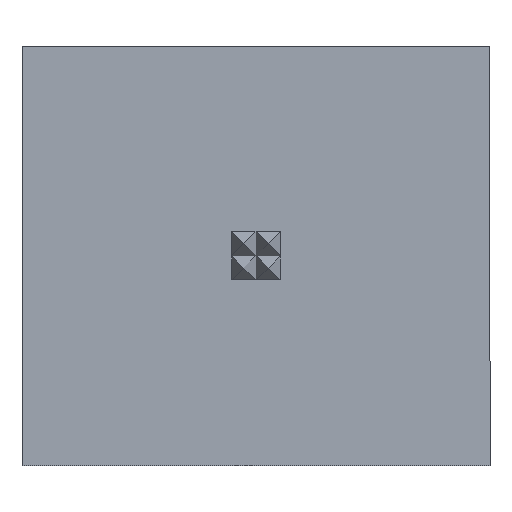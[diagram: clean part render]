
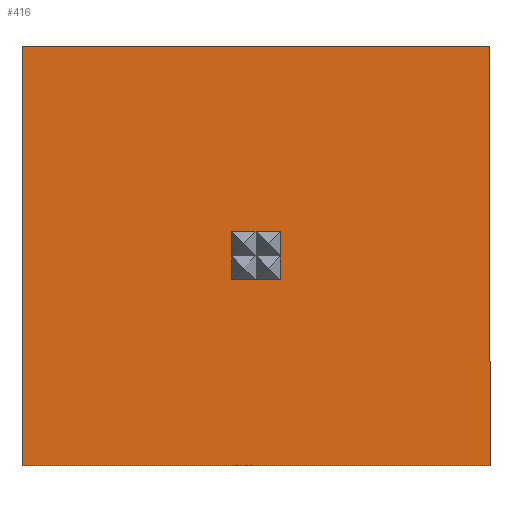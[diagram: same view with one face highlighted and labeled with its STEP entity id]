
A CAD part, top view. The second image highlights one B-rep face of the part: STEP entity #416.
In plain terms, the highlighted planar face has unit normal (0, 0, 1).
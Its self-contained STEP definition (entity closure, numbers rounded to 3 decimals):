
#266=CARTESIAN_POINT('',(-5.755,5.16,1.07));
#267=VERTEX_POINT('',#266);
#274=CARTESIAN_POINT('',(5.755,5.16,1.07));
#275=VERTEX_POINT('',#274);
#276=CARTESIAN_POINT('',(-5.755,5.16,1.07));
#277=DIRECTION('',(1.0,0.0,0.0));
#278=VECTOR('',#277,11.51);
#279=LINE('',#276,#278);
#280=EDGE_CURVE('',#267,#275,#279,.T.);
#297=CARTESIAN_POINT('',(-5.755,-5.16,1.07));
#298=VERTEX_POINT('',#297);
#305=CARTESIAN_POINT('',(-5.755,-5.16,1.07));
#306=DIRECTION('',(0.0,1.0,0.0));
#307=VECTOR('',#306,10.32);
#308=LINE('',#305,#307);
#309=EDGE_CURVE('',#298,#267,#308,.T.);
#327=CARTESIAN_POINT('',(-0.6,5.16,1.07));
#328=DIRECTION('',(0.0,0.0,-1.0));
#329=DIRECTION('',(-1.0,0.0,0.0));
#330=AXIS2_PLACEMENT_3D('',#327,#328,#329);
#331=PLANE('',#330);
#332=ORIENTED_EDGE('',*,*,#309,.F.);
#333=CARTESIAN_POINT('',(5.755,-5.16,1.07));
#334=VERTEX_POINT('',#333);
#335=CARTESIAN_POINT('',(5.755,-5.16,1.07));
#336=DIRECTION('',(-1.0,0.0,0.0));
#337=VECTOR('',#336,11.51);
#338=LINE('',#335,#337);
#339=EDGE_CURVE('',#334,#298,#338,.T.);
#340=ORIENTED_EDGE('',*,*,#339,.F.);
#341=CARTESIAN_POINT('',(5.755,5.16,1.07));
#342=DIRECTION('',(0.0,-1.0,0.0));
#343=VECTOR('',#342,10.32);
#344=LINE('',#341,#343);
#345=EDGE_CURVE('',#275,#334,#344,.T.);
#346=ORIENTED_EDGE('',*,*,#345,.F.);
#347=ORIENTED_EDGE('',*,*,#280,.F.);
#348=EDGE_LOOP('',(#332,#340,#346,#347));
#349=FACE_OUTER_BOUND('',#348,.T.);
#350=CARTESIAN_POINT('',(0.0,0.6,1.07));
#351=VERTEX_POINT('',#350);
#352=CARTESIAN_POINT('',(-0.6,0.6,1.07));
#353=VERTEX_POINT('',#352);
#354=CARTESIAN_POINT('',(0.0,0.6,1.07));
#355=DIRECTION('',(-1.0,0.0,0.0));
#356=VECTOR('',#355,0.6);
#357=LINE('',#354,#356);
#358=EDGE_CURVE('',#351,#353,#357,.T.);
#359=ORIENTED_EDGE('',*,*,#358,.F.);
#360=CARTESIAN_POINT('',(0.6,0.6,1.07));
#361=VERTEX_POINT('',#360);
#362=CARTESIAN_POINT('',(0.6,0.6,1.07));
#363=DIRECTION('',(-1.0,0.0,0.0));
#364=VECTOR('',#363,0.6);
#365=LINE('',#362,#364);
#366=EDGE_CURVE('',#361,#351,#365,.T.);
#367=ORIENTED_EDGE('',*,*,#366,.F.);
#368=CARTESIAN_POINT('',(0.6,0.,1.07));
#369=VERTEX_POINT('',#368);
#370=CARTESIAN_POINT('',(0.6,0.,1.07));
#371=DIRECTION('',(0.0,1.0,0.0));
#372=VECTOR('',#371,0.6);
#373=LINE('',#370,#372);
#374=EDGE_CURVE('',#369,#361,#373,.T.);
#375=ORIENTED_EDGE('',*,*,#374,.F.);
#376=CARTESIAN_POINT('',(0.6,-0.587,1.07));
#377=VERTEX_POINT('',#376);
#378=CARTESIAN_POINT('',(0.6,-0.587,1.07));
#379=DIRECTION('',(0.0,1.0,0.0));
#380=VECTOR('',#379,0.587);
#381=LINE('',#378,#380);
#382=EDGE_CURVE('',#377,#369,#381,.T.);
#383=ORIENTED_EDGE('',*,*,#382,.F.);
#384=CARTESIAN_POINT('',(0.,-0.587,1.07));
#385=VERTEX_POINT('',#384);
#386=CARTESIAN_POINT('',(0.6,-0.587,1.07));
#387=DIRECTION('',(-1.0,0.0,0.0));
#388=VECTOR('',#387,0.6);
#389=LINE('',#386,#388);
#390=EDGE_CURVE('',#377,#385,#389,.T.);
#391=ORIENTED_EDGE('',*,*,#390,.T.);
#392=CARTESIAN_POINT('',(-0.6,-0.587,1.07));
#393=VERTEX_POINT('',#392);
#394=CARTESIAN_POINT('',(0.,-0.587,1.07));
#395=DIRECTION('',(-1.0,0.0,0.0));
#396=VECTOR('',#395,0.6);
#397=LINE('',#394,#396);
#398=EDGE_CURVE('',#385,#393,#397,.T.);
#399=ORIENTED_EDGE('',*,*,#398,.T.);
#400=CARTESIAN_POINT('',(-0.6,0.,1.07));
#401=VERTEX_POINT('',#400);
#402=CARTESIAN_POINT('',(-0.6,-0.587,1.07));
#403=DIRECTION('',(0.0,1.0,0.0));
#404=VECTOR('',#403,0.587);
#405=LINE('',#402,#404);
#406=EDGE_CURVE('',#393,#401,#405,.T.);
#407=ORIENTED_EDGE('',*,*,#406,.T.);
#408=CARTESIAN_POINT('',(-0.6,0.,1.07));
#409=DIRECTION('',(0.0,1.0,0.0));
#410=VECTOR('',#409,0.6);
#411=LINE('',#408,#410);
#412=EDGE_CURVE('',#401,#353,#411,.T.);
#413=ORIENTED_EDGE('',*,*,#412,.T.);
#414=EDGE_LOOP('',(#359,#367,#375,#383,#391,#399,#407,#413));
#415=FACE_BOUND('',#414,.T.);
#416=ADVANCED_FACE('',(#349,#415),#331,.F.);
